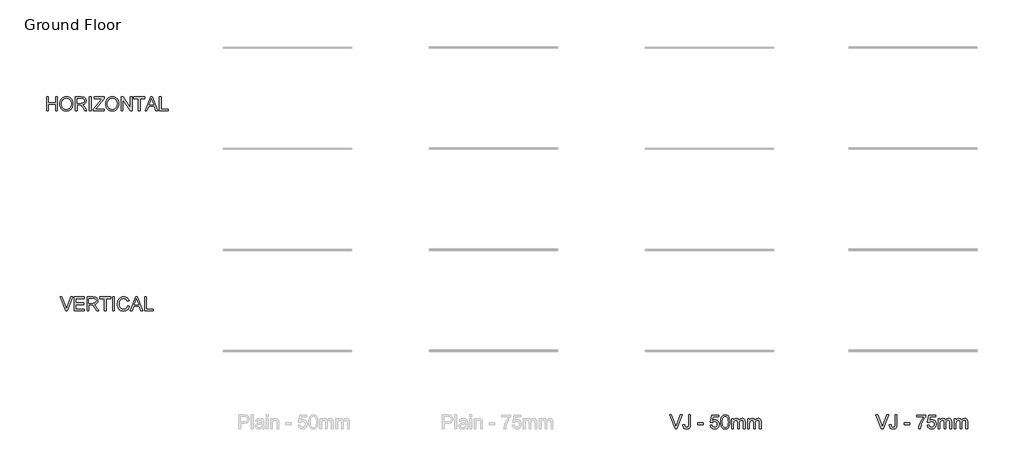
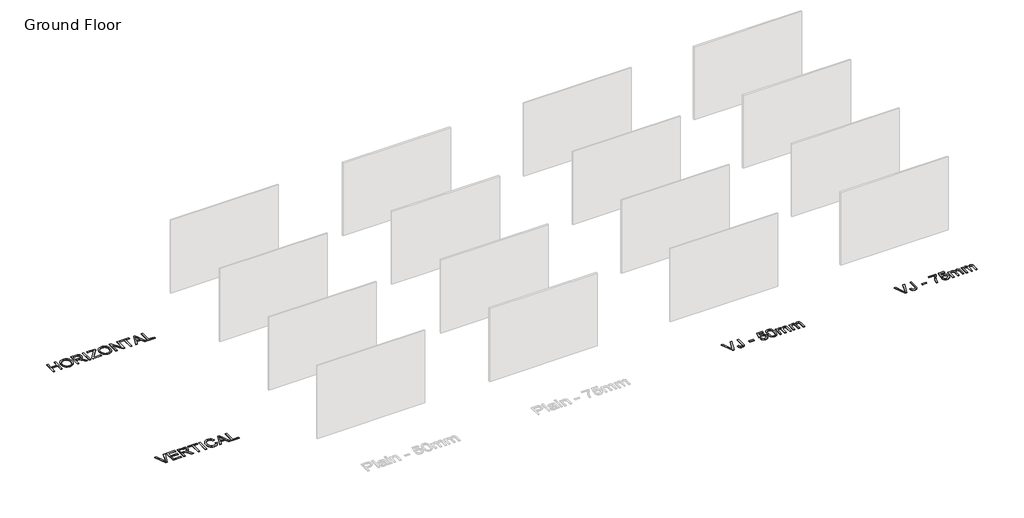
# One storey, part 2 of 2: 4 proxies.
"""IFC4 building model written with IfcOpenShell, lengths in millimetres."""

from ifc_helpers import new_model, si_unit, origin, origin_with_axes, place, context, project, spatial, polyline, outline, extrude, element, save

model = new_model("IFC4")

# Units and contexts
model_context = context("Model", 3, world=origin())
ifc_project = project(units=[si_unit("LENGTHUNIT", "METRE", prefix="MILLI")], contexts=[model_context])

# Site, building, storey
site = spatial("IfcSite", under=ifc_project)
building = spatial("IfcBuilding", under=site)
storey = spatial("IfcBuildingStorey", under=building, Name="Ground Floor", Elevation=0.0)

# Proxies
placement = place(None, origin())
element("IfcBuildingElementProxy", 1, Name="600mm Arial", ObjectType="600mm Arial", at=placement, inside=storey, context=model_context, shape_type="SweptSolid", body=[
    extrude(outline(polyline([(10702.5236128, -2485.58737), (10462.6645519, -1882.8495091), (10543.3042852, -1882.8495091), (10703.8479879, -2317.0974162), (10736.3687563, -2414.9540269), (10768.4480663, -2317.0974162), (10929.4332274, -1882.8495091), (11010.0729607, -1882.8495091), (10780.3674429, -2485.58737), (10702.5236128, -2485.58737)])), origin_with_axes(), (0.0, 0.0, 1.0), 20.0),
    extrude(outline(polyline([(11042.4465763, -2316.3616522), (11117.7888089, -2306.6495676), (11120.4467563, -2336.604359), (11125.6246954, -2361.4271966), (11133.3226262, -2381.1180804), (11143.5405486, -2395.6770104), (11156.1221128, -2406.1708443), (11170.910969, -2413.66644), (11187.9071172, -2418.1637973), (11207.1105573, -2419.6629165), (11234.9408303, -2416.260008), (11258.6876131, -2406.0512827), (11277.0081364, -2389.9748395), (11288.5596311, -2368.9687775), (11294.6848663, -2338.5633306), (11296.7266114, -2294.2887325), (11296.7266114, -1882.8495091), (11372.068844, -1882.8495091), (11372.068844, -2292.9643573), (11367.5255013, -2360.0476392), (11361.846323, -2387.1743378), (11353.8954734, -2410.0244082), (11343.4752159, -2429.5083584), (11330.3878139, -2446.5366962), (11314.6332675, -2461.1094218), (11296.2115766, -2473.226535), (11253.2981418, -2489.5604956), (11203.5788902, -2495.0051491), (11166.4503998, -2492.1954503), (11133.9388285, -2483.7663541), (11106.0441762, -2469.7178604), (11082.766443, -2450.0499693), (11064.519496, -2424.836257), (11051.7172026, -2394.1503001), (11044.3595627, -2357.9920985), (11042.4465763, -2316.3616522)])), origin_with_axes(), (0.0, 0.0, 1.0), 20.0),
    extrude(outline(polyline([(11692.2733326, -2306.6495676), (11692.2733326, -2231.3073349), (11927.7178095, -2231.3073349), (11927.7178095, -2306.6495676), (11692.2733326, -2306.6495676)])), origin_with_axes(), (0.0, 0.0, 1.0), 20.0),
    extrude(outline(polyline([(12229.0867399, -2325.4851257), (12304.4289726, -2316.0673466), (12310.0575671, -2340.2877775), (12318.2613356, -2361.2984379), (12329.040278, -2379.099328), (12342.3943945, -2393.6904476), (12358.2960937, -2405.0534027), (12376.7177846, -2413.1697993), (12397.6594672, -2418.0396372), (12421.1211414, -2419.6629165), (12449.815937, -2417.4050407), (12475.1262183, -2410.6314135), (12497.0519852, -2399.3420348), (12515.5932378, -2383.5369045), (12530.3361087, -2363.9977721), (12540.8667309, -2341.5063866), (12547.1851041, -2316.0627481), (12549.2912285, -2287.6668566), (12547.3184613, -2260.8298651), (12541.4001597, -2236.9727177), (12531.5363238, -2216.0954144), (12517.7269534, -2198.1979554), (12499.9260633, -2183.8413605), (12478.0876684, -2173.5866499), (12452.2117685, -2167.4338235), (12422.2983638, -2165.3828814), (12385.7492876, -2168.6570312), (12356.1531811, -2178.4794804), (12332.5167629, -2193.525854), (12313.8467516, -2212.4717768), (12238.504519, -2203.0539977), (12304.4289726, -1892.2672882), (12596.3801239, -1892.2672882), (12596.3801239, -1967.6095208), (12365.350231, -1967.6095208), (12333.1237682, -2133.597877), (12359.7124394, -2114.5415897), (12386.9449041, -2100.9299559), (12414.8211623, -2092.7629756), (12443.3412139, -2090.0406488), (12480.0328444, -2093.4159661), (12513.7354337, -2103.541918), (12544.4489818, -2120.4185045), (12572.1734886, -2144.0457257), (12595.1247266, -2172.9796446), (12611.518468, -2205.7763245), (12621.3547129, -2242.4357653), (12624.6334612, -2282.9579671), (12621.6812081, -2321.9902468), (12612.8244491, -2358.3001997), (12598.0631841, -2391.8878258), (12577.397413, -2422.7531252), (12546.0906552, -2454.3633857), (12509.5599731, -2476.9421431), (12467.8053666, -2490.4893976), (12420.8268358, -2495.0051491), (12381.9463075, -2492.1034798), (12346.8273725, -2483.3984721), (12315.4700309, -2468.890126), (12287.8742828, -2448.5784413), (12264.9138477, -2423.4750936), (12247.4624456, -2394.5917585), (12235.5200763, -2361.9284359), (12229.0867399, -2325.4851257)])), origin_with_axes(), (0.0, 0.0, 1.0), 20.0),
    extrude(outline(polyline([(12690.5579147, -2189.0744819), (12696.0945387, -2092.5974287), (12703.0153188, -2051.6843523), (12712.7044108, -2015.6549094), (12725.1204281, -1984.2147944), (12740.221984, -1957.0697016), (12758.0090785, -1934.2196312), (12778.4817115, -1915.6645831), (12801.708861, -1901.3079882), (12827.7595048, -1891.0532776), (12856.6336429, -1884.9004512), (12888.3312753, -1882.8495091), (12934.7579831, -1887.7055514), (12976.3286485, -1902.2736785), (13011.0934971, -1925.983673), (13037.1027541, -1958.2653181), (13056.7476527, -1998.8427022), (13072.4194257, -2047.4399138), (13082.6833333, -2109.1521184), (13086.1046359, -2189.0744819), (13080.6231942, -2284.9997121), (13073.771392, -2325.7748328), (13064.178869, -2361.7582904), (13051.8594207, -2393.212201), (13036.8268427, -2420.3986805), (13019.0811349, -2443.3177288), (12998.6222975, -2461.9693459), (12975.3675568, -2476.4225098), (12949.2341396, -2486.7461983), (12920.2220458, -2492.9404114), (12888.3312753, -2495.0051491), (12846.8341862, -2491.4182996), (12810.0459867, -2480.6577513), (12777.9666767, -2462.723504), (12750.5962563, -2437.6155578), (12724.3294818, -2392.2281167), (12705.5675001, -2335.675457), (12694.310311, -2267.9575787), (12690.5579147, -2189.0744819)]), holes=[polyline([(12765.9001473, -2188.9273291), (12768.1074393, -2254.4241198), (12774.7293152, -2307.4405138), (12785.765775, -2347.9765112), (12801.2168188, -2376.0321118), (12819.9052242, -2395.1205889), (12840.6537687, -2408.7552153), (12863.4624524, -2416.9359912), (12888.3312753, -2419.6629165), (12913.2000982, -2416.9267941), (12936.0087819, -2408.7184271), (12956.7573264, -2395.0378154), (12975.4457318, -2375.884959), (12990.8967756, -2347.7833731), (13001.9332354, -2307.2565728), (13008.5551113, -2254.3045582), (13010.7624033, -2188.9273291), (13008.6286877, -2125.1641823), (13002.227541, -2073.0812888), (12991.5589631, -2032.6786487), (12976.6229541, -2003.9562619), (12958.2472485, -1983.9342843), (12937.2595807, -1969.6328718), (12913.6599507, -1961.0520242), (12887.4483585, -1958.1917417), (12862.7082943, -1960.7117334), (12840.2858867, -1968.2717084), (12820.1811357, -1980.8716667), (12802.3940412, -1998.5116084), (12786.4279626, -2029.781578), (12775.0236208, -2071.9408546), (12768.1810157, -2124.9894383), (12765.9001473, -2188.9273291)])]), origin_with_axes(), (0.0, 0.0, 1.0), 20.0),
    extrude(outline(polyline([(13170.8646476, -2485.58737), (13170.8646476, -2042.9517534), (13246.2068802, -2042.9517534), (13246.2068802, -2115.7923885), (13268.8684111, -2082.333521), (13298.0046651, -2056.1219288), (13332.6223609, -2039.180963), (13371.728217, -2033.5339743), (13413.6299762, -2039.2913276), (13431.4630559, -2046.4880191), (13447.2176024, -2056.5633872), (13472.3071544, -2084.2097192), (13488.7146914, -2121.0898892), (13516.1770824, -2082.7841764), (13547.5022343, -2055.422953), (13582.6901471, -2039.006219), (13621.7408209, -2033.5339743), (13651.902546, -2035.8102442), (13678.376254, -2042.6390537), (13701.1619451, -2054.0204029), (13720.2596192, -2069.9542919), (13735.3565766, -2090.6246615), (13746.1401176, -2116.2154528), (13752.6102421, -2146.7266657), (13754.7669503, -2182.1583004), (13754.7669503, -2485.58737), (13679.4247177, -2485.58737), (13679.4247177, -2214.531916), (13677.6772782, -2176.9527702), (13672.4349598, -2151.6240948), (13662.6125105, -2134.2784587), (13647.1246785, -2120.6484308), (13627.2038685, -2111.8192629), (13604.0824851, -2108.8762069), (13582.7315338, -2110.7616022), (13563.2659777, -2116.4177879), (13545.6858169, -2125.844764), (13529.9910513, -2139.0425306), (13517.0829918, -2156.3973637), (13507.8629493, -2178.2955394), (13502.3309238, -2204.7370578), (13500.4869153, -2235.7219189), (13500.4869153, -2485.58737), (13425.1446827, -2485.58737), (13425.1446827, -2206.1442065), (13420.785281, -2163.5434714), (13415.336029, -2146.8232348), (13407.7070761, -2133.1564186), (13397.5949197, -2122.533826), (13384.6960573, -2114.9462599), (13369.0104887, -2110.3937202), (13350.538214, -2108.8762069), (13321.5123246, -2112.9229089), (13294.7673036, -2125.0630147), (13272.6943839, -2145.0022189), (13257.6847985, -2172.4462157), (13249.0763598, -2210.5220022), (13246.2068802, -2262.3565753), (13246.2068802, -2485.58737), (13170.8646476, -2485.58737)])), origin_with_axes(), (0.0, 0.0, 1.0), 20.0),
    extrude(outline(polyline([(13867.7802993, -2485.58737), (13867.7802993, -2042.9517534), (13943.1225319, -2042.9517534), (13943.1225319, -2115.7923885), (13965.7840628, -2082.333521), (13994.9203168, -2056.1219288), (14029.5380125, -2039.180963), (14068.6438686, -2033.5339743), (14110.5456279, -2039.2913276), (14128.3787076, -2046.4880191), (14144.133254, -2056.5633872), (14169.2228061, -2084.2097192), (14185.6303431, -2121.0898892), (14213.092734, -2082.7841764), (14244.4178859, -2055.422953), (14279.6057988, -2039.006219), (14318.6564725, -2033.5339743), (14348.8181976, -2035.8102442), (14375.2919057, -2042.6390537), (14398.0775968, -2054.0204029), (14417.1752709, -2069.9542919), (14432.2722282, -2090.6246615), (14443.0557692, -2116.2154528), (14449.5258938, -2146.7266657), (14451.682602, -2182.1583004), (14451.682602, -2485.58737), (14376.3403694, -2485.58737), (14376.3403694, -2214.531916), (14374.5929299, -2176.9527702), (14369.3506115, -2151.6240948), (14359.5281622, -2134.2784587), (14344.0403302, -2120.6484308), (14324.1195202, -2111.8192629), (14300.9981368, -2108.8762069), (14279.6471855, -2110.7616022), (14260.1816294, -2116.4177879), (14242.6014686, -2125.844764), (14226.9067029, -2139.0425306), (14213.9986434, -2156.3973637), (14204.7786009, -2178.2955394), (14199.2465754, -2204.7370578), (14197.4025669, -2235.7219189), (14197.4025669, -2485.58737), (14122.0603343, -2485.58737), (14122.0603343, -2206.1442065), (14117.7009327, -2163.5434714), (14112.2516806, -2146.8232348), (14104.6227278, -2133.1564186), (14094.5105714, -2122.533826), (14081.611709, -2114.9462599), (14065.9261404, -2110.3937202), (14047.4538657, -2108.8762069), (14018.4279763, -2112.9229089), (13991.6829552, -2125.0630147), (13969.6100355, -2145.0022189), (13954.6004501, -2172.4462157), (13945.9920114, -2210.5220022), (13943.1225319, -2262.3565753), (13943.1225319, -2485.58737), (13867.7802993, -2485.58737)])), origin_with_axes(), (0.0, 0.0, 1.0), 20.0),
])
element("IfcBuildingElementProxy", 2, Name="600mm Arial", ObjectType="600mm Arial", at=placement, inside=storey, context=model_context, shape_type="SweptSolid", body=[
    extrude(outline(polyline([(19689.8635484, -2485.58737), (19450.0044876, -1882.8495091), (19530.6442209, -1882.8495091), (19691.1879236, -2317.0974162), (19723.708692, -2414.9540269), (19755.788002, -2317.0974162), (19916.7731631, -1882.8495091), (19997.4128964, -1882.8495091), (19767.7073786, -2485.58737), (19689.8635484, -2485.58737)])), origin_with_axes(), (0.0, 0.0, 1.0), 20.0),
    extrude(outline(polyline([(20029.786512, -2316.3616522), (20105.1287446, -2306.6495676), (20107.786692, -2336.604359), (20112.9646311, -2361.4271966), (20120.6625618, -2381.1180804), (20130.8804843, -2395.6770104), (20143.4620485, -2406.1708443), (20158.2509047, -2413.66644), (20175.2470529, -2418.1637973), (20194.450493, -2419.6629165), (20222.280766, -2416.260008), (20246.0275487, -2406.0512827), (20264.3480721, -2389.9748395), (20275.8995668, -2368.9687775), (20282.024802, -2338.5633306), (20284.066547, -2294.2887325), (20284.066547, -1882.8495091), (20359.4087797, -1882.8495091), (20359.4087797, -2292.9643573), (20354.865437, -2360.0476392), (20349.1862587, -2387.1743378), (20341.2354091, -2410.0244082), (20330.8151516, -2429.5083584), (20317.7277496, -2446.5366962), (20301.9732032, -2461.1094218), (20283.5515123, -2473.226535), (20240.6380775, -2489.5604956), (20190.9188259, -2495.0051491), (20153.7903355, -2492.1954503), (20121.2787642, -2483.7663541), (20093.3841119, -2469.7178604), (20070.1063787, -2450.0499693), (20051.8594317, -2424.836257), (20039.0571383, -2394.1503001), (20031.6994984, -2357.9920985), (20029.786512, -2316.3616522)])), origin_with_axes(), (0.0, 0.0, 1.0), 20.0),
    extrude(outline(polyline([(20679.6132683, -2306.6495676), (20679.6132683, -2231.3073349), (20915.0577452, -2231.3073349), (20915.0577452, -2306.6495676), (20679.6132683, -2306.6495676)])), origin_with_axes(), (0.0, 0.0, 1.0), 20.0),
    extrude(outline(polyline([(21216.4266756, -1967.6095208), (21216.4266756, -1892.2672882), (21611.9733968, -1892.2672882), (21611.9733968, -1953.1885466), (21555.5954811, -2024.5392596), (21499.7693883, -2115.2773537), (21450.5283833, -2217.125484), (21430.6397629, -2269.1118085), (21413.9057306, -2321.8063058), (21395.9530893, -2400.1283825), (21385.946699, -2485.58737), (21310.6044664, -2485.58737), (21318.7530526, -2407.9274808), (21340.5500608, -2315.6258882), (21356.4195704, -2266.260723), (21375.4068798, -2217.7876716), (21397.5119892, -2170.2067341), (21422.7348985, -2123.5179104), (21477.9907742, -2038.2980462), (21536.6311642, -1967.6095208), (21216.4266756, -1967.6095208)])), origin_with_axes(), (0.0, 0.0, 1.0), 20.0),
    extrude(outline(polyline([(21677.8978504, -2325.4851257), (21753.240083, -2316.0673466), (21758.8686775, -2340.2877775), (21767.072446, -2361.2984379), (21777.8513885, -2379.099328), (21791.2055049, -2393.6904476), (21807.1072041, -2405.0534027), (21825.528895, -2413.1697993), (21846.4705776, -2418.0396372), (21869.9322519, -2419.6629165), (21898.6270475, -2417.4050407), (21923.9373287, -2410.6314135), (21945.8630957, -2399.3420348), (21964.4043482, -2383.5369045), (21979.1472192, -2363.9977721), (21989.6778413, -2341.5063866), (21995.9962146, -2316.0627481), (21998.102339, -2287.6668566), (21996.1295718, -2260.8298651), (21990.2112702, -2236.9727177), (21980.3474342, -2216.0954144), (21966.5380638, -2198.1979554), (21948.7371737, -2183.8413605), (21926.8987788, -2173.5866499), (21901.022879, -2167.4338235), (21871.1094742, -2165.3828814), (21834.560398, -2168.6570312), (21804.9642915, -2178.4794804), (21781.3278733, -2193.525854), (21762.6578621, -2212.4717768), (21687.3156295, -2203.0539977), (21753.240083, -1892.2672882), (22045.1912344, -1892.2672882), (22045.1912344, -1967.6095208), (21814.1613414, -1967.6095208), (21781.9348786, -2133.597877), (21808.5235498, -2114.5415897), (21835.7560145, -2100.9299559), (21863.6322727, -2092.7629756), (21892.1523244, -2090.0406488), (21928.8439549, -2093.4159661), (21962.5465441, -2103.541918), (21993.2600922, -2120.4185045), (22020.9845991, -2144.0457257), (22043.9358371, -2172.9796446), (22060.3295785, -2205.7763245), (22070.1658233, -2242.4357653), (22073.4445716, -2282.9579671), (22070.4923186, -2321.9902468), (22061.6355595, -2358.3001997), (22046.8742945, -2391.8878258), (22026.2085234, -2422.7531252), (21994.9017656, -2454.3633857), (21958.3710835, -2476.9421431), (21916.616477, -2490.4893976), (21869.6379463, -2495.0051491), (21830.7574179, -2492.1034798), (21795.6384829, -2483.3984721), (21764.2811414, -2468.890126), (21736.6853932, -2448.5784413), (21713.7249582, -2423.4750936), (21696.273556, -2394.5917585), (21684.3311868, -2361.9284359), (21677.8978504, -2325.4851257)])), origin_with_axes(), (0.0, 0.0, 1.0), 20.0),
    extrude(outline(polyline([(22158.2045833, -2485.58737), (22158.2045833, -2042.9517534), (22233.5468159, -2042.9517534), (22233.5468159, -2115.7923885), (22256.2083468, -2082.333521), (22285.3446008, -2056.1219288), (22319.9622966, -2039.180963), (22359.0681526, -2033.5339743), (22400.9699119, -2039.2913276), (22418.8029916, -2046.4880191), (22434.5575381, -2056.5633872), (22459.6470901, -2084.2097192), (22476.0546271, -2121.0898892), (22503.5170181, -2082.7841764), (22534.8421699, -2055.422953), (22570.0300828, -2039.006219), (22609.0807566, -2033.5339743), (22639.2424816, -2035.8102442), (22665.7161897, -2042.6390537), (22688.5018808, -2054.0204029), (22707.5995549, -2069.9542919), (22722.6965123, -2090.6246615), (22733.4800532, -2116.2154528), (22739.9501778, -2146.7266657), (22742.106886, -2182.1583004), (22742.106886, -2485.58737), (22666.7646534, -2485.58737), (22666.7646534, -2214.531916), (22665.0172139, -2176.9527702), (22659.7748955, -2151.6240948), (22649.9524462, -2134.2784587), (22634.4646142, -2120.6484308), (22614.5438042, -2111.8192629), (22591.4224208, -2108.8762069), (22570.0714695, -2110.7616022), (22550.6059134, -2116.4177879), (22533.0257526, -2125.844764), (22517.330987, -2139.0425306), (22504.4229275, -2156.3973637), (22495.202885, -2178.2955394), (22489.6708595, -2204.7370578), (22487.826851, -2235.7219189), (22487.826851, -2485.58737), (22412.4846183, -2485.58737), (22412.4846183, -2206.1442065), (22408.1252167, -2163.5434714), (22402.6759646, -2146.8232348), (22395.0470118, -2133.1564186), (22384.9348554, -2122.533826), (22372.035993, -2114.9462599), (22356.3504244, -2110.3937202), (22337.8781497, -2108.8762069), (22308.8522603, -2112.9229089), (22282.1072393, -2125.0630147), (22260.0343195, -2145.0022189), (22245.0247341, -2172.4462157), (22236.4162955, -2210.5220022), (22233.5468159, -2262.3565753), (22233.5468159, -2485.58737), (22158.2045833, -2485.58737)])), origin_with_axes(), (0.0, 0.0, 1.0), 20.0),
    extrude(outline(polyline([(22855.1202349, -2485.58737), (22855.1202349, -2042.9517534), (22930.4624676, -2042.9517534), (22930.4624676, -2115.7923885), (22953.1239985, -2082.333521), (22982.2602525, -2056.1219288), (23016.8779482, -2039.180963), (23055.9838043, -2033.5339743), (23097.8855636, -2039.2913276), (23115.7186433, -2046.4880191), (23131.4731897, -2056.5633872), (23156.5627418, -2084.2097192), (23172.9702788, -2121.0898892), (23200.4326697, -2082.7841764), (23231.7578216, -2055.422953), (23266.9457344, -2039.006219), (23305.9964082, -2033.5339743), (23336.1581333, -2035.8102442), (23362.6318414, -2042.6390537), (23385.4175325, -2054.0204029), (23404.5152065, -2069.9542919), (23419.6121639, -2090.6246615), (23430.3957049, -2116.2154528), (23436.8658295, -2146.7266657), (23439.0225377, -2182.1583004), (23439.0225377, -2485.58737), (23363.6803051, -2485.58737), (23363.6803051, -2214.531916), (23361.9328656, -2176.9527702), (23356.6905472, -2151.6240948), (23346.8680979, -2134.2784587), (23331.3802659, -2120.6484308), (23311.4594559, -2111.8192629), (23288.3380725, -2108.8762069), (23266.9871212, -2110.7616022), (23247.5215651, -2116.4177879), (23229.9414043, -2125.844764), (23214.2466386, -2139.0425306), (23201.3385791, -2156.3973637), (23192.1185366, -2178.2955394), (23186.5865111, -2204.7370578), (23184.7425026, -2235.7219189), (23184.7425026, -2485.58737), (23109.40027, -2485.58737), (23109.40027, -2206.1442065), (23105.0408684, -2163.5434714), (23099.5916163, -2146.8232348), (23091.9626634, -2133.1564186), (23081.8505071, -2122.533826), (23068.9516446, -2114.9462599), (23053.2660761, -2110.3937202), (23034.7938014, -2108.8762069), (23005.767912, -2112.9229089), (22979.0228909, -2125.0630147), (22956.9499712, -2145.0022189), (22941.9403858, -2172.4462157), (22933.3319471, -2210.5220022), (22930.4624676, -2262.3565753), (22930.4624676, -2485.58737), (22855.1202349, -2485.58737)])), origin_with_axes(), (0.0, 0.0, 1.0), 20.0),
])
element("IfcBuildingElementProxy", 3, Name="600mm Arial", ObjectType="600mm Arial", at=placement, inside=storey, context=model_context, shape_type="SweptSolid", body=[
    extrude(outline(polyline([(-15825.7847773, 2651.9959966), (-16065.6438382, 3254.7338575), (-15985.0041048, 3254.7338575), (-15824.4604021, 2820.4859504), (-15791.9396338, 2722.6293397), (-15759.8603238, 2820.4859504), (-15598.8751627, 3254.7338575), (-15518.2354294, 3254.7338575), (-15747.9409471, 2651.9959966), (-15825.7847773, 2651.9959966)])), origin_with_axes(), (0.0, 0.0, 1.0), 20.0),
    extrude(outline(polyline([(-15448.1906975, 2651.9959966), (-15448.1906975, 3254.7338575), (-15014.97286, 3254.7338575), (-15014.97286, 3179.3916249), (-15372.8484649, 3179.3916249), (-15372.8484649, 3000.4538225), (-15033.8084181, 3000.4538225), (-15033.8084181, 2925.1115898), (-15372.8484649, 2925.1115898), (-15372.8484649, 2727.3382292), (-15005.5550809, 2727.3382292), (-15005.5550809, 2651.9959966), (-15448.1906975, 2651.9959966)])), origin_with_axes(), (0.0, 0.0, 1.0), 20.0),
    extrude(outline(polyline([(-14892.541732, 2651.9959966), (-14892.541732, 3254.7338575), (-14632.8170434, 3254.7338575), (-14563.0114348, 3250.6687615), (-14512.2253253, 3238.4734733), (-14492.6264121, 3228.7797828), (-14475.106032, 3215.9590952), (-14459.6641853, 3200.0114107), (-14446.3008718, 3180.9367293), (-14435.5173308, 3159.7605219), (-14427.8148016, 3137.5082598), (-14423.193284, 3114.1799427), (-14421.6527781, 3089.7755709), (-14424.2049595, 3058.818301), (-14431.8615035, 3030.3994169), (-14444.6224102, 3004.5189185), (-14462.4876796, 2981.1768059), (-14485.6872379, 2961.1180401), (-14514.4510114, 2945.0875822), (-14548.7790001, 2933.0854321), (-14588.6712039, 2925.1115898), (-14563.8391693, 2908.8879939), (-14545.8497397, 2892.8851271), (-14514.9844403, 2856.2808685), (-14484.7813285, 2815.3356025), (-14384.2759674, 2651.9959966), (-14471.8318823, 2651.9959966), (-14550.2643237, 2776.9287222), (-14606.9181509, 2859.6285947), (-14627.9793951, 2883.7432595), (-14646.7229828, 2898.6976626), (-14682.5546891, 2913.0450604), (-14726.2590701, 2915.6938108), (-14817.1994994, 2915.6938108), (-14817.1994994, 2651.9959966), (-14892.541732, 2651.9959966)]), holes=[polyline([(-14817.1994994, 2991.0360434), (-14648.5623928, 2991.0360434), (-14600.1307281, 2993.7031878), (-14562.5515823, 3001.7046212), (-14534.2614569, 3015.5737725), (-14513.6968533, 3035.8440704), (-14501.1704714, 3060.3634054), (-14496.9950107, 3086.9796677), (-14498.986172, 3106.2474872), (-14504.9596559, 3123.731079), (-14514.9154624, 3139.4304432), (-14528.8535915, 3153.3455796), (-14547.09594, 3164.7407245), (-14569.9644045, 3172.8801136), (-14597.4589851, 3177.7637471), (-14629.5796818, 3179.3916249), (-14817.1994994, 3179.3916249), (-14817.1994994, 2991.0360434)])]), origin_with_axes(), (0.0, 0.0, 1.0), 20.0),
    extrude(outline(polyline([(-14139.1194058, 2651.9959966), (-14139.1194058, 3179.3916249), (-14336.8927664, 3179.3916249), (-14336.8927664, 3254.7338575), (-13866.0038126, 3254.7338575), (-13866.0038126, 3179.3916249), (-14063.7771732, 3179.3916249), (-14063.7771732, 2651.9959966), (-14139.1194058, 2651.9959966)])), origin_with_axes(), (0.0, 0.0, 1.0), 20.0),
    extrude(outline(polyline([(-13771.8260219, 2651.9959966), (-13771.8260219, 3254.7338575), (-13696.4837892, 3254.7338575), (-13696.4837892, 2651.9959966), (-13771.8260219, 2651.9959966)])), origin_with_axes(), (0.0, 0.0, 1.0), 20.0),
    extrude(outline(polyline([(-13121.9992656, 2866.2504706), (-13046.657033, 2846.8263013), (-13061.5654508, 2799.9719307), (-13081.4218815, 2759.0312631), (-13106.226325, 2724.0042987), (-13135.9787814, 2694.8910373), (-13170.0078659, 2672.0041786), (-13207.6421941, 2655.6564225), (-13248.8817657, 2645.8477688), (-13293.7265809, 2642.5782175), (-13339.6704436, 2645.052224), (-13381.1169489, 2652.4742432), (-13418.0660968, 2664.8442753), (-13450.5178873, 2682.1623202), (-13478.9183773, 2704.1708606), (-13503.7136238, 2730.612379), (-13524.9036267, 2761.4868754), (-13542.4883861, 2796.7943499), (-13556.2977565, 2835.0080922), (-13566.1615925, 2874.6013919), (-13572.0798941, 2915.5742491), (-13574.0526613, 2957.9266638), (-13571.8223767, 3003.3692873), (-13565.1315229, 3045.8136725), (-13553.9800999, 3085.2598194), (-13538.3681077, 3121.7077281), (-13518.6450343, 3154.5549917), (-13495.1603674, 3183.1992036), (-13467.9141071, 3207.6403636), (-13436.9062534, 3227.8784719), (-13403.1898686, 3243.7479814), (-13367.8180148, 3255.0833454), (-13330.7906919, 3261.8845638), (-13292.1079001, 3264.1516366), (-13249.0151229, 3261.2177777), (-13209.4999981, 3252.416201), (-13173.5625257, 3237.7469064), (-13141.2027057, 3217.209894), (-13112.953967, 3191.3477898), (-13089.3497385, 3160.7032196), (-13070.3900202, 3125.2761834), (-13056.074812, 3085.0666813), (-13131.4170447, 3067.11404), (-13143.281239, 3096.7423362), (-13157.5366663, 3122.057216), (-13174.1833266, 3143.0586794), (-13193.2212198, 3159.7467264), (-13214.7607107, 3172.4616478), (-13238.9121636, 3181.5437346), (-13265.6755788, 3186.9929866), (-13295.0509561, 3188.809404), (-13328.8501144, 3186.7952501), (-13359.7613991, 3180.7527883), (-13387.78481, 3170.6820187), (-13412.9203474, 3156.5829412), (-13434.8507128, 3139.0901523), (-13453.2586081, 3118.8382485), (-13468.1440334, 3095.8272297), (-13479.5069885, 3070.0570959), (-13493.9095686, 3014.9115849), (-13498.7104286, 2958.0738166), (-13493.0266518, 2888.4705431), (-13485.9219308, 2857.2005735), (-13475.9753213, 2828.2850487), (-13463.0258751, 2802.2987843), (-13446.9126437, 2779.8165958), (-13427.6356272, 2760.8384834), (-13405.1948255, 2745.364447), (-13380.680089, 2733.3576984), (-13355.1812682, 2724.7814494), (-13328.6983631, 2719.6357), (-13301.2313736, 2717.9204502), (-13268.4760805, 2720.2565008), (-13238.3419466, 2727.2646528), (-13210.8289718, 2738.9449062), (-13185.9371563, 2755.2972609), (-13164.2551112, 2776.2481405), (-13146.3714478, 2801.7239687), (-13132.2861659, 2831.7247454), (-13121.9992656, 2866.2504706)])), origin_with_axes(), (0.0, 0.0, 1.0), 20.0),
    extrude(outline(polyline([(-13013.2533478, 2651.9959966), (-12772.658523, 3254.7338575), (-12708.499903, 3254.7338575), (-12467.9050782, 2651.9959966), (-12547.5147419, 2651.9959966), (-12616.5294042, 2840.3515782), (-12864.7761745, 2840.3515782), (-12933.643684, 2651.9959966), (-13013.2533478, 2651.9959966)]), holes=[polyline([(-12837.1114485, 2915.6938108), (-12644.0469774, 2915.6938108), (-12698.3463599, 3063.8766784), (-12740.579213, 3179.3916249), (-12778.1031765, 3076.8261247), (-12837.1114485, 2915.6938108)])]), origin_with_axes(), (0.0, 0.0, 1.0), 20.0),
    extrude(outline(polyline([(-12387.4124976, 2651.9959966), (-12387.4124976, 3254.7338575), (-12312.070265, 3254.7338575), (-12312.070265, 2727.3382292), (-12010.7013345, 2727.3382292), (-12010.7013345, 2651.9959966), (-12387.4124976, 2651.9959966)])), origin_with_axes(), (0.0, 0.0, 1.0), 20.0),
])
element("IfcBuildingElementProxy", 4, Name="600mm Arial", ObjectType="600mm Arial", at=placement, inside=storey, context=model_context, shape_type="SweptSolid", body=[
    extrude(outline(polyline([(-16653.6664193, 11356.7959966), (-16653.6664193, 11959.5338575), (-16578.3241867, 11959.5338575), (-16578.3241867, 11714.6716015), (-16258.1196981, 11714.6716015), (-16258.1196981, 11959.5338575), (-16182.7774654, 11959.5338575), (-16182.7774654, 11356.7959966), (-16258.1196981, 11356.7959966), (-16258.1196981, 11639.3293689), (-16578.3241867, 11639.3293689), (-16578.3241867, 11356.7959966), (-16653.6664193, 11356.7959966)])), origin_with_axes(), (0.0, 0.0, 1.0), 20.0),
    extrude(outline(polyline([(-16079.1818956, 11650.218676), (-16074.1603064, 11720.9163984), (-16059.0955387, 11783.5023228), (-16033.9875925, 11837.9764493), (-16017.6674275, 11862.1715882), (-15998.8364679, 11884.3387777), (-15955.7482892, 11921.3569035), (-15906.8291809, 11947.7984219), (-15852.0791429, 11963.6633329), (-15791.4981754, 11968.9516366), (-15750.9483825, 11966.4684331), (-15712.4403346, 11959.0188227), (-15675.9740318, 11946.6028054), (-15641.5494741, 11929.2203811), (-15610.1323518, 11907.3957818), (-15582.6883549, 11881.6532391), (-15559.2174836, 11851.9927533), (-15539.7197379, 11818.4143242), (-15524.3974528, 11781.681307), (-15513.4529634, 11742.5570568), (-15506.8862698, 11701.0415736), (-15504.6973719, 11657.1348575), (-15507.0012329, 11612.6487272), (-15513.9128159, 11570.572224), (-15525.4321209, 11530.9053479), (-15541.5591479, 11493.6480988), (-15561.9122192, 11459.7845612), (-15586.1096575, 11430.2988193), (-15614.1514626, 11405.1908731), (-15646.0376345, 11384.4607227), (-15680.512776, 11368.2371267), (-15716.3214897, 11356.6488438), (-15753.4637756, 11349.6958741), (-15791.9396338, 11347.3782175), (-15833.1975995, 11349.9395959), (-15872.2114851, 11357.6237311), (-15908.9812905, 11370.4306231), (-15943.5070158, 11388.3602718), (-15974.88735, 11410.7183001), (-16002.2209822, 11436.8103306), (-16025.5079125, 11466.6363633), (-16044.7481409, 11500.1963983), (-16059.8129086, 11536.1430678), (-16070.5734569, 11573.1290039), (-16077.0297859, 11611.1542066), (-16079.1818956, 11650.218676)]), holes=[polyline([(-16003.839663, 11649.482912), (-16000.0734711, 11599.5337341), (-15988.7748953, 11555.1947566), (-15969.9439357, 11516.4659796), (-15943.5805922, 11483.347403), (-15911.5334719, 11456.8231111), (-15875.6511818, 11437.8771884), (-15835.9337219, 11426.5096347), (-15792.3810922, 11422.7204502), (-15748.0835014, 11426.5464229), (-15707.896992, 11438.0243412), (-15671.8215638, 11457.1542049), (-15639.857217, 11483.9360142), (-15613.6870115, 11517.7535666), (-15594.9940077, 11557.9906598), (-15583.7782053, 11604.6472938), (-15580.0396046, 11657.7234687), (-15581.6398912, 11692.2032087), (-15586.4407513, 11724.4204744), (-15594.4421847, 11754.3752659), (-15605.6441914, 11782.067583), (-15619.9226114, 11807.1341425), (-15637.1532843, 11829.2116607), (-15657.3362103, 11848.3001378), (-15680.4713892, 11864.3995736), (-15705.8414513, 11877.1788744), (-15732.7290266, 11886.3069464), (-15761.1341152, 11891.7837896), (-15791.056717, 11893.609404), (-15833.096432, 11890.0915324), (-15872.1011205, 11879.5379177), (-15908.0707826, 11861.9485598), (-15941.0054182, 11837.3234587), (-15968.4954003, 11804.4761951), (-15988.1311018, 11762.2203494), (-15999.9125227, 11710.5559217), (-16003.839663, 11649.482912)])]), origin_with_axes(), (0.0, 0.0, 1.0), 20.0),
    extrude(outline(polyline([(-15401.1018021, 11356.7959966), (-15401.1018021, 11959.5338575), (-15141.3771135, 11959.5338575), (-15071.5715049, 11955.4687615), (-15020.7853955, 11943.2734733), (-15001.1864822, 11933.5797828), (-14983.6661022, 11920.7590952), (-14968.2242554, 11904.8114107), (-14954.8609419, 11885.7367293), (-14944.077401, 11864.5605219), (-14936.3748717, 11842.3082598), (-14931.7533541, 11818.9799427), (-14930.2128483, 11794.5755709), (-14932.7650296, 11763.618301), (-14940.4215736, 11735.1994169), (-14953.1824803, 11709.3189185), (-14971.0477497, 11685.9768059), (-14994.2473081, 11665.9180401), (-15023.0110816, 11649.8875822), (-15057.3390702, 11637.8854321), (-15097.2312741, 11629.9115898), (-15072.3992394, 11613.6879939), (-15054.4098098, 11597.6851271), (-15023.5445104, 11561.0808685), (-14993.3413986, 11520.1356025), (-14892.8360376, 11356.7959966), (-14980.3919524, 11356.7959966), (-15058.8243938, 11481.7287222), (-15115.478221, 11564.4285947), (-15136.5394653, 11588.5432595), (-15155.2830529, 11603.4976626), (-15191.1147592, 11617.8450604), (-15234.8191403, 11620.4938108), (-15325.7595695, 11620.4938108), (-15325.7595695, 11356.7959966), (-15401.1018021, 11356.7959966)]), holes=[polyline([(-15325.7595695, 11695.8360434), (-15157.1224629, 11695.8360434), (-15108.6907982, 11698.5031878), (-15071.1116524, 11706.5046212), (-15042.821527, 11720.3737725), (-15022.2569235, 11740.6440704), (-15009.7305415, 11765.1634054), (-15005.5550809, 11791.7796677), (-15007.5462422, 11811.0474872), (-15013.5197261, 11828.531079), (-15023.4755326, 11844.2304432), (-15037.4136617, 11858.1455796), (-15055.6560101, 11869.5407245), (-15078.5244746, 11877.6801136), (-15106.0190552, 11882.5637471), (-15138.1397519, 11884.1916249), (-15325.7595695, 11884.1916249), (-15325.7595695, 11695.8360434)])]), origin_with_axes(), (0.0, 0.0, 1.0), 20.0),
    extrude(outline(polyline([(-14788.9461621, 11356.7959966), (-14788.9461621, 11959.5338575), (-14713.6039295, 11959.5338575), (-14713.6039295, 11356.7959966), (-14788.9461621, 11356.7959966)])), origin_with_axes(), (0.0, 0.0, 1.0), 20.0),
    extrude(outline(polyline([(-14610.0083597, 11356.7959966), (-14610.0083597, 11434.9341324), (-14301.7232477, 11812.3810594), (-14243.1564341, 11884.1916249), (-14572.3372434, 11884.1916249), (-14572.3372434, 11959.5338575), (-14148.5371849, 11959.5338575), (-14148.5371849, 11884.1916249), (-14485.9585509, 11471.1337207), (-14517.7435553, 11432.1382292), (-14139.1194058, 11432.1382292), (-14139.1194058, 11356.7959966), (-14610.0083597, 11356.7959966)])), origin_with_axes(), (0.0, 0.0, 1.0), 20.0),
    extrude(outline(polyline([(-14082.6127314, 11650.218676), (-14077.5911421, 11720.9163984), (-14062.5263744, 11783.5023228), (-14037.4184283, 11837.9764493), (-14021.0982633, 11862.1715882), (-14002.2673036, 11884.3387777), (-13959.179125, 11921.3569035), (-13910.2600166, 11947.7984219), (-13855.5099787, 11963.6633329), (-13794.9290112, 11968.9516366), (-13754.3792182, 11966.4684331), (-13715.8711704, 11959.0188227), (-13679.4048676, 11946.6028054), (-13644.9803099, 11929.2203811), (-13613.5631875, 11907.3957818), (-13586.1191907, 11881.6532391), (-13562.6483194, 11851.9927533), (-13543.1505737, 11818.4143242), (-13527.8282886, 11781.681307), (-13516.8837992, 11742.5570568), (-13510.3171056, 11701.0415736), (-13508.1282077, 11657.1348575), (-13510.4320687, 11612.6487272), (-13517.3436517, 11570.572224), (-13528.8629567, 11530.9053479), (-13544.9899836, 11493.6480988), (-13565.343055, 11459.7845612), (-13589.5404932, 11430.2988193), (-13617.5822983, 11405.1908731), (-13649.4684703, 11384.4607227), (-13683.9436117, 11368.2371267), (-13719.7523254, 11356.6488438), (-13756.8946114, 11349.6958741), (-13795.3704695, 11347.3782175), (-13836.6284353, 11349.9395959), (-13875.6423209, 11357.6237311), (-13912.4121263, 11370.4306231), (-13946.9378516, 11388.3602718), (-13978.3181857, 11410.7183001), (-14005.651818, 11436.8103306), (-14028.9387483, 11466.6363633), (-14048.1789766, 11500.1963983), (-14063.2437443, 11536.1430678), (-14074.0042927, 11573.1290039), (-14080.4606217, 11611.1542066), (-14082.6127314, 11650.218676)]), holes=[polyline([(-14007.2704988, 11649.482912), (-14003.5043068, 11599.5337341), (-13992.2057311, 11555.1947566), (-13973.3747714, 11516.4659796), (-13947.011428, 11483.347403), (-13914.9643077, 11456.8231111), (-13879.0820176, 11437.8771884), (-13839.3645576, 11426.5096347), (-13795.8119279, 11422.7204502), (-13751.5143372, 11426.5464229), (-13711.3278278, 11438.0243412), (-13675.2523996, 11457.1542049), (-13643.2880527, 11483.9360142), (-13617.1178473, 11517.7535666), (-13598.4248434, 11557.9906598), (-13587.2090411, 11604.6472938), (-13583.4704403, 11657.7234687), (-13585.070727, 11692.2032087), (-13589.871587, 11724.4204744), (-13597.8730204, 11754.3752659), (-13609.0750272, 11782.067583), (-13623.3534471, 11807.1341425), (-13640.5841201, 11829.2116607), (-13660.767046, 11848.3001378), (-13683.902225, 11864.3995736), (-13709.2722871, 11877.1788744), (-13736.1598624, 11886.3069464), (-13764.564951, 11891.7837896), (-13794.4875528, 11893.609404), (-13836.5272678, 11890.0915324), (-13875.5319563, 11879.5379177), (-13911.5016184, 11861.9485598), (-13944.436254, 11837.3234587), (-13971.9262361, 11804.4761951), (-13991.5619376, 11762.2203494), (-14003.3433585, 11710.5559217), (-14007.2704988, 11649.482912)])]), origin_with_axes(), (0.0, 0.0, 1.0), 20.0),
    extrude(outline(polyline([(-13404.5326379, 11356.7959966), (-13404.5326379, 11959.5338575), (-13323.8929045, 11959.5338575), (-13008.9859167, 11482.0230278), (-13008.9859167, 11959.5338575), (-12933.643684, 11959.5338575), (-12933.643684, 11356.7959966), (-13014.2834174, 11356.7959966), (-13329.1904053, 11834.4539792), (-13329.1904053, 11356.7959966), (-13404.5326379, 11356.7959966)])), origin_with_axes(), (0.0, 0.0, 1.0), 20.0),
    extrude(outline(polyline([(-12651.1103118, 11356.7959966), (-12651.1103118, 11884.1916249), (-12848.8836724, 11884.1916249), (-12848.8836724, 11959.5338575), (-12377.9947185, 11959.5338575), (-12377.9947185, 11884.1916249), (-12575.7680791, 11884.1916249), (-12575.7680791, 11356.7959966), (-12651.1103118, 11356.7959966)])), origin_with_axes(), (0.0, 0.0, 1.0), 20.0),
    extrude(outline(polyline([(-12363.4265915, 11356.7959966), (-12122.8317667, 11959.5338575), (-12058.6731467, 11959.5338575), (-11818.0783219, 11356.7959966), (-11897.6879856, 11356.7959966), (-11966.7026479, 11545.1515782), (-12214.9494183, 11545.1515782), (-12283.8169278, 11356.7959966), (-12363.4265915, 11356.7959966)]), holes=[polyline([(-12187.2846922, 11620.4938108), (-11994.2202212, 11620.4938108), (-12048.5196037, 11768.6766784), (-12090.7524567, 11884.1916249), (-12128.2764202, 11781.6261247), (-12187.2846922, 11620.4938108)])]), origin_with_axes(), (0.0, 0.0, 1.0), 20.0),
    extrude(outline(polyline([(-11737.5857413, 11356.7959966), (-11737.5857413, 11959.5338575), (-11662.2435087, 11959.5338575), (-11662.2435087, 11432.1382292), (-11360.8745783, 11432.1382292), (-11360.8745783, 11356.7959966), (-11737.5857413, 11356.7959966)])), origin_with_axes(), (0.0, 0.0, 1.0), 20.0),
])

save(model, "model.ifc")
